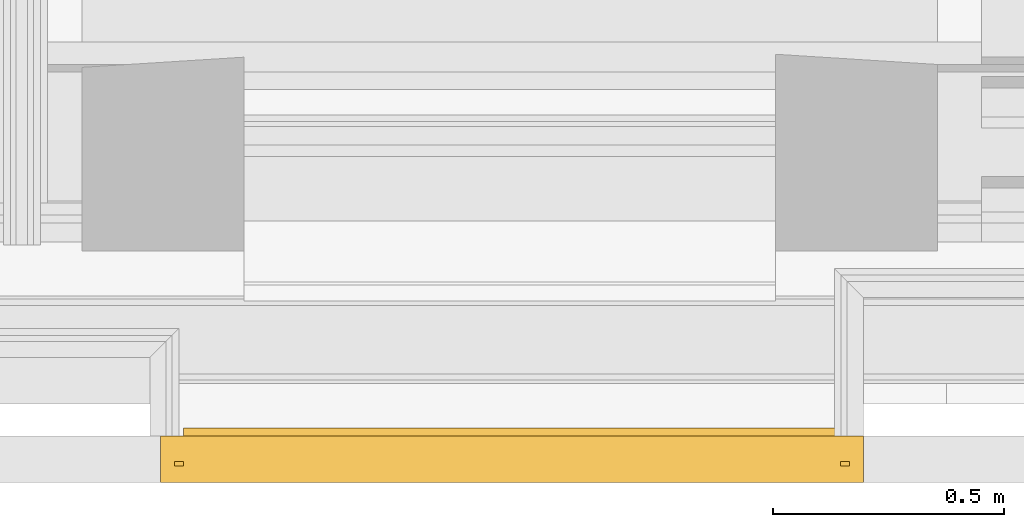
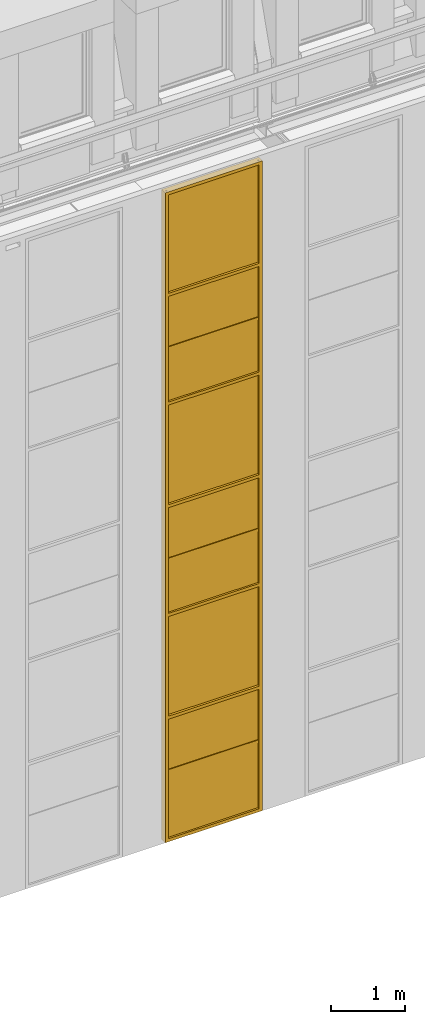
# One storey, part 135 of 183: 1 curtain wall.
"""IFC2X3 building model written with IfcOpenShell, lengths in metres."""

from ifc_helpers import new_model, entity, si_unit, converted_unit, derived_unit, money_unit, direction, frame, origin_with_axes, place, context, subcontext, project, spatial, faceted_brep, material, type_object, element, save


model = new_model("IFC2X3")

# Units and contexts
model_context = context("Model", 3, precision=1e-05, world=origin_with_axes(), true_north=direction((0.0, 1.0)))
body_context = subcontext(model_context, "Body", "Model", "MODEL_VIEW", scale=1.0)
ifc_project = project(units=[si_unit("LENGTHUNIT", "METRE"), si_unit("AREAUNIT", "SQUARE_METRE"), si_unit("VOLUMEUNIT", "CUBIC_METRE"), si_unit("ABSORBEDDOSEUNIT", "GRAY"), si_unit("AMOUNTOFSUBSTANCEUNIT", "MOLE"), si_unit("DOSEEQUIVALENTUNIT", "SIEVERT"), si_unit("ELECTRICCAPACITANCEUNIT", "FARAD"), si_unit("ELECTRICCHARGEUNIT", "COULOMB"), si_unit("ELECTRICCONDUCTANCEUNIT", "SIEMENS"), si_unit("ELECTRICCURRENTUNIT", "AMPERE"), si_unit("ELECTRICRESISTANCEUNIT", "OHM"), si_unit("ELECTRICVOLTAGEUNIT", "VOLT"), si_unit("ENERGYUNIT", "JOULE"), si_unit("FORCEUNIT", "NEWTON"), si_unit("FREQUENCYUNIT", "HERTZ"), si_unit("ILLUMINANCEUNIT", "LUX"), si_unit("INDUCTANCEUNIT", "HENRY"), si_unit("LUMINOUSFLUXUNIT", "LUMEN"), si_unit("LUMINOUSINTENSITYUNIT", "CANDELA"), si_unit("MAGNETICFLUXDENSITYUNIT", "TESLA"), si_unit("MAGNETICFLUXUNIT", "WEBER"), si_unit("MASSUNIT", "GRAM"), converted_unit("PLANEANGLEUNIT", "degree", entity("IfcReal", 0.0174532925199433), si_unit("PLANEANGLEUNIT", "RADIAN"), dimensions=[0, 0, 0, 0, 0, 0, 0]), si_unit("POWERUNIT", "WATT"), si_unit("PRESSUREUNIT", "PASCAL"), si_unit("RADIOACTIVITYUNIT", "BECQUEREL"), si_unit("SOLIDANGLEUNIT", "STERADIAN"), si_unit("THERMODYNAMICTEMPERATUREUNIT", "KELVIN"), si_unit("TIMEUNIT", "SECOND"), derived_unit("ACCELERATIONUNIT", [(si_unit("LENGTHUNIT", "METRE"), 1), (si_unit("TIMEUNIT", "SECOND"), -2)]), derived_unit("ANGULARVELOCITYUNIT", [(converted_unit("PLANEANGLEUNIT", "degree", entity("IfcReal", 0.0174532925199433), si_unit("PLANEANGLEUNIT", "RADIAN"), dimensions=[0, 0, 0, 0, 0, 0, 0]), 1), (si_unit("TIMEUNIT", "SECOND"), -1)]), derived_unit("CURVATUREUNIT", [(converted_unit("PLANEANGLEUNIT", "degree", entity("IfcReal", 0.0174532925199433), si_unit("PLANEANGLEUNIT", "RADIAN"), dimensions=[0, 0, 0, 0, 0, 0, 0]), 1), (si_unit("LENGTHUNIT", "METRE"), -1)]), derived_unit("DYNAMICVISCOSITYUNIT", [(si_unit("PRESSUREUNIT", "PASCAL"), 1), (si_unit("TIMEUNIT", "SECOND"), 1)]), derived_unit("HEATFLUXDENSITYUNIT", [(si_unit("POWERUNIT", "WATT"), 1), (si_unit("LENGTHUNIT", "METRE"), -2)]), derived_unit("HEATINGVALUEUNIT", [(si_unit("ENERGYUNIT", "JOULE"), 1), (si_unit("MASSUNIT", "GRAM"), -1)]), derived_unit("INTEGERCOUNTRATEUNIT", [(si_unit("TIMEUNIT", "SECOND"), -1)]), derived_unit("IONCONCENTRATIONUNIT", [(si_unit("MASSUNIT", "GRAM"), 1), (si_unit("VOLUMEUNIT", "CUBIC_METRE"), -1)]), derived_unit("ISOTHERMALMOISTURECAPACITYUNIT", [(si_unit("VOLUMEUNIT", "CUBIC_METRE"), 1), (si_unit("MASSUNIT", "GRAM"), -1)]), derived_unit("KINEMATICVISCOSITYUNIT", [(si_unit("AREAUNIT", "SQUARE_METRE"), 1), (si_unit("TIMEUNIT", "SECOND"), -1)]), derived_unit("LINEARFORCEUNIT", [(si_unit("FORCEUNIT", "NEWTON"), 1), (si_unit("LENGTHUNIT", "METRE"), -1)]), derived_unit("LINEARMOMENTUNIT", [(si_unit("FORCEUNIT", "NEWTON"), 1), (si_unit("LENGTHUNIT", "METRE"), -1)]), derived_unit("LINEARSTIFFNESSUNIT", [(si_unit("FORCEUNIT", "NEWTON"), 1), (si_unit("LENGTHUNIT", "METRE"), -1)]), derived_unit("LINEARVELOCITYUNIT", [(si_unit("LENGTHUNIT", "METRE"), 1), (si_unit("TIMEUNIT", "SECOND"), -1)]), derived_unit("LUMINOUSINTENSITYDISTRIBUTIONUNIT", [(si_unit("LUMINOUSINTENSITYUNIT", "CANDELA"), 1), (si_unit("LUMINOUSFLUXUNIT", "LUMEN"), -1)]), derived_unit("MASSDENSITYUNIT", [(si_unit("MASSUNIT", "GRAM"), 1), (si_unit("VOLUMEUNIT", "CUBIC_METRE"), -1)]), derived_unit("MASSFLOWRATEUNIT", [(si_unit("MASSUNIT", "GRAM"), 1), (si_unit("TIMEUNIT", "SECOND"), -1)]), derived_unit("MASSPERLENGTHUNIT", [(si_unit("MASSUNIT", "GRAM"), 1), (si_unit("LENGTHUNIT", "METRE"), -1)]), derived_unit("MODULUSOFELASTICITYUNIT", [(si_unit("FORCEUNIT", "NEWTON"), 1), (si_unit("AREAUNIT", "SQUARE_METRE"), -1)]), derived_unit("MODULUSOFLINEARSUBGRADEREACTIONUNIT", [(si_unit("FORCEUNIT", "NEWTON"), 1), (si_unit("LENGTHUNIT", "METRE"), -2)]), derived_unit("MODULUSOFROTATIONALSUBGRADEREACTIONUNIT", [(si_unit("FORCEUNIT", "NEWTON"), 1), (si_unit("LENGTHUNIT", "METRE"), 1)]), derived_unit("MODULUSOFSUBGRADEREACTIONUNIT", [(si_unit("FORCEUNIT", "NEWTON"), 1), (si_unit("VOLUMEUNIT", "CUBIC_METRE"), -1)]), derived_unit("MOISTUREDIFFUSIVITYUNIT", [(si_unit("VOLUMEUNIT", "CUBIC_METRE"), 1), (si_unit("TIMEUNIT", "SECOND"), -1)]), derived_unit("MOLECULARWEIGHTUNIT", [(si_unit("MASSUNIT", "GRAM"), 1), (si_unit("AMOUNTOFSUBSTANCEUNIT", "MOLE"), -1)]), derived_unit("PLANARFORCEUNIT", [(si_unit("FORCEUNIT", "NEWTON"), 1), (si_unit("LENGTHUNIT", "METRE"), -2)]), derived_unit("ROTATIONALFREQUENCYUNIT", [(si_unit("TIMEUNIT", "SECOND"), -1)]), derived_unit("ROTATIONALMASSUNIT", [(si_unit("MASSUNIT", "GRAM"), 1), (si_unit("LENGTHUNIT", "METRE"), 2)]), derived_unit("ROTATIONALSTIFFNESSUNIT", [(si_unit("FORCEUNIT", "NEWTON"), 1), (si_unit("LENGTHUNIT", "METRE"), 1), (converted_unit("PLANEANGLEUNIT", "degree", entity("IfcReal", 0.0174532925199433), si_unit("PLANEANGLEUNIT", "RADIAN"), dimensions=[0, 0, 0, 0, 0, 0, 0]), -1)]), derived_unit("SECTIONAREAINTEGRALUNIT", [(si_unit("LENGTHUNIT", "METRE"), 5)]), derived_unit("SECTIONMODULUSUNIT", [(si_unit("LENGTHUNIT", "METRE"), 3)]), derived_unit("SHEARMODULUSUNIT", [(si_unit("FORCEUNIT", "NEWTON"), 1), (si_unit("AREAUNIT", "SQUARE_METRE"), -1)]), derived_unit("SOUNDPOWERUNIT", [(si_unit("ENERGYUNIT", "JOULE"), 1), (si_unit("TIMEUNIT", "SECOND"), -1)]), derived_unit("SPECIFICHEATCAPACITYUNIT", [(si_unit("FORCEUNIT", "NEWTON"), 1), (si_unit("MASSUNIT", "GRAM"), -1), (si_unit("THERMODYNAMICTEMPERATUREUNIT", "KELVIN"), -1)]), derived_unit("TEMPERATUREGRADIENTUNIT", [(si_unit("THERMODYNAMICTEMPERATUREUNIT", "KELVIN"), 1), (si_unit("LENGTHUNIT", "METRE"), -1)]), derived_unit("THERMALADMITTANCEUNIT", [(si_unit("POWERUNIT", "WATT"), 1), (si_unit("AREAUNIT", "SQUARE_METRE"), -1), (si_unit("THERMODYNAMICTEMPERATUREUNIT", "KELVIN"), -1)]), derived_unit("THERMALCONDUCTANCEUNIT", [(si_unit("POWERUNIT", "WATT"), 1), (si_unit("LENGTHUNIT", "METRE"), -1), (si_unit("THERMODYNAMICTEMPERATUREUNIT", "KELVIN"), -1)]), derived_unit("THERMALEXPANSIONCOEFFICIENTUNIT", [(si_unit("THERMODYNAMICTEMPERATUREUNIT", "KELVIN"), -1)]), derived_unit("THERMALRESISTANCEUNIT", [(si_unit("AREAUNIT", "SQUARE_METRE"), 1), (si_unit("POWERUNIT", "WATT"), -1)]), derived_unit("THERMALTRANSMITTANCEUNIT", [(si_unit("POWERUNIT", "WATT"), 1), (si_unit("AREAUNIT", "SQUARE_METRE"), -1), (si_unit("THERMODYNAMICTEMPERATUREUNIT", "KELVIN"), -1)]), derived_unit("TORQUEUNIT", [(si_unit("FORCEUNIT", "NEWTON"), 1), (si_unit("LENGTHUNIT", "METRE"), 1)]), derived_unit("VAPORPERMEABILITYUNIT", [(si_unit("MASSUNIT", "GRAM"), 1), (si_unit("TIMEUNIT", "SECOND"), -1)]), derived_unit("VOLUMETRICFLOWRATEUNIT", [(si_unit("VOLUMEUNIT", "CUBIC_METRE"), 1), (si_unit("TIMEUNIT", "SECOND"), -1)]), derived_unit("WARPINGCONSTANTUNIT", [(si_unit("LENGTHUNIT", "METRE"), 6)]), derived_unit("WARPINGMOMENTUNIT", [(si_unit("FORCEUNIT", "NEWTON"), 1), (si_unit("LENGTHUNIT", "METRE"), 2)]), money_unit("GBP")], contexts=[model_context])

# Site, building, storey
site_placement = place(None, origin_with_axes())
site = spatial("IfcSite", under=ifc_project, at=site_placement, Name="Site", CompositionType="ELEMENT")
building_placement = place(site_placement, origin_with_axes())
building = spatial("IfcBuilding", under=site, at=building_placement, Name="Building01", CompositionType="ELEMENT")
storey_placement = place(building_placement, frame((0.0, 0.0, 5.15), z_axis=(0.0, 0.0, 1.0), x_axis=(1.0, 0.0, 0.0)))
storey = spatial("IfcBuildingStorey", under=building, at=storey_placement, Name="1F", CompositionType="ELEMENT", Elevation=5.15)

# Curtain wall
ifc_material = material(Name="A-CurtainWall_Frame")
curtain_wall_type = type_object("IfcCurtainWallType", Name="Pattern - Maximum Spacing", PredefinedType="NOTDEFINED")
curtain_wall_placement = place(storey_placement, frame((0.0, 0.0, -5.15), z_axis=(0.0, 0.0, 1.0), x_axis=(1.0, 0.0, 0.0)))
element("IfcCurtainWall", 1, at=curtain_wall_placement, inside=storey, type_object=curtain_wall_type, material=ifc_material, Name="23", ObjectType="Pattern - Maximum Spacing", context=body_context, shape_type="Brep", body=[
    faceted_brep([(16.06, 0.05, 4.0), (16.06, 0.03, 4.0), (16.06, 0.03, 5.118945), (16.06, 0.05, 5.118945), (17.52, 0.05, 4.0), (17.52, 0.03, 4.0), (17.52, 0.05, 5.118945), (17.52, 0.03, 5.118945)], [[[0, 1, 2, 3]], [[4, 5, 1, 0]], [[6, 7, 5, 4]], [[3, 2, 7, 6]], [[1, 5, 7, 2]], [[3, 6, 4, 0]]]),
    faceted_brep([(16.08, 0.045, 3.97), (16.06, 0.045, 3.97), (16.06, 0.035, 3.97), (16.08, 0.035, 3.97), (16.08, 0.0, 3.97), (16.03, 0.0, 3.97), (16.03, 0.1, 3.97), (16.08, 0.1, 3.97), (16.08, 0.1, 5.123945), (16.08, 0.045, 5.123945), (16.06, 0.045, 5.123945), (16.06, 0.035, 5.123945), (16.08, 0.035, 5.123945), (16.08, 0.0, 5.123945), (16.03, 0.0, 5.123945), (16.03, 0.1, 5.123945)], [[[0, 1, 2, 3, 4, 5, 6, 7]], [[7, 8, 9, 0]], [[0, 9, 10, 1]], [[1, 10, 11, 2]], [[2, 11, 12, 3]], [[3, 12, 13, 4]], [[4, 13, 14, 5]], [[5, 14, 15, 6]], [[6, 15, 8, 7]]]),
    faceted_brep([(17.5, 0.045, 4.0), (17.5, 0.035, 4.0), (17.5, 0.035, 4.02), (17.5, 0.0, 4.02), (17.5, 0.0, 3.97), (17.5, 0.1, 3.97), (17.5, 0.1, 4.02), (17.5, 0.045, 4.02), (16.08, 0.045, 4.02), (16.08, 0.045, 4.0), (16.08, 0.035, 4.0), (16.08, 0.035, 4.02), (16.08, 0.0, 4.02), (16.08, 0.0, 3.97), (16.08, 0.1, 3.97), (16.08, 0.1, 4.02)], [[[0, 1, 2, 3, 4, 5, 6, 7]], [[7, 8, 9, 0]], [[0, 9, 10, 1]], [[1, 10, 11, 2]], [[2, 11, 12, 3]], [[3, 12, 13, 4]], [[4, 13, 14, 5]], [[5, 14, 15, 6]], [[6, 15, 8, 7]], [[8, 15, 14, 13, 12, 11, 10, 9]]]),
    faceted_brep([(17.5, 0.045, 3.97), (17.5, 0.045, 5.123945), (17.5, 0.1, 5.123945), (17.5, 0.1, 3.97), (17.52, 0.045, 3.97), (17.52, 0.045, 5.123945), (17.52, 0.035, 3.97), (17.52, 0.035, 5.123945), (17.5, 0.035, 3.97), (17.5, 0.035, 5.123945), (17.5, 0.0, 3.97), (17.5, 0.0, 5.123945), (17.55, 0.0, 3.97), (17.55, 0.0, 5.123945), (17.55, 0.1, 3.97), (17.55, 0.1, 5.123945)], [[[0, 1, 2, 3]], [[4, 5, 1, 0]], [[6, 7, 5, 4]], [[8, 9, 7, 6]], [[10, 11, 9, 8]], [[12, 13, 11, 10]], [[14, 15, 13, 12]], [[3, 2, 15, 14]], [[14, 12, 10, 8, 6, 4, 0, 3]]]),
    faceted_brep([(16.08, 0.0625, 5.118945), (16.08, 0.0525, 5.118945), (16.08, 0.0525, 5.098945), (16.08, 0.0175, 5.098945), (16.08, 0.0175, 5.148945), (16.08, 0.0525, 5.148945), (16.08, 0.0525, 5.128945), (16.08, 0.0625, 5.128945), (16.08, 0.0625, 5.148945), (16.08, 0.1175, 5.148945), (16.08, 0.1175, 5.098945), (16.08, 0.0625, 5.098945), (17.5, 0.0625, 5.098945), (17.5, 0.0625, 5.118945), (17.5, 0.0525, 5.118945), (17.5, 0.0525, 5.098945), (17.5, 0.0175, 5.098945), (17.5, 0.0175, 5.148945), (17.5, 0.0525, 5.148945), (17.5, 0.0625, 5.128945), (17.5, 0.0625, 5.148945), (17.5, 0.0525, 5.128945), (17.5, 0.1175, 5.098945), (17.5, 0.1175, 5.148945)], [[[0, 1, 2, 3, 4, 5, 6, 7, 8, 9, 10, 11]], [[11, 12, 13, 0]], [[0, 13, 14, 1]], [[1, 14, 15, 2]], [[2, 15, 16, 3]], [[3, 16, 17, 4]], [[4, 17, 18, 5]], [[7, 19, 20, 8]], [[6, 21, 19, 7]], [[5, 18, 21, 6]], [[10, 22, 12, 11]], [[9, 23, 22, 10]], [[8, 20, 23, 9]], [[20, 19, 21, 18, 17, 16, 15, 14, 13, 12, 22, 23]]]),
    faceted_brep([(16.06, 0.05, 5.128945), (16.06, 0.03, 5.128945), (16.06, 0.03, 6.018105), (16.06, 0.05, 6.018105), (17.52, 0.05, 5.128945), (17.52, 0.03, 5.128945), (17.52, 0.05, 6.018105), (17.52, 0.03, 6.018105)], [[[0, 1, 2, 3]], [[4, 5, 1, 0]], [[6, 7, 5, 4]], [[3, 2, 7, 6]], [[1, 5, 7, 2]], [[3, 6, 4, 0]]]),
    faceted_brep([(16.03, 0.1, 6.023105), (16.03, 0.1, 5.123945), (16.03, 0.0, 5.123945), (16.03, 0.0, 6.023105), (16.08, 0.1, 6.023105), (16.08, 0.1, 5.123945), (16.08, 0.045, 6.023105), (16.08, 0.045, 5.123945), (16.06, 0.045, 6.023105), (16.06, 0.045, 5.123945), (16.06, 0.035, 6.023105), (16.06, 0.035, 5.123945), (16.08, 0.035, 6.023105), (16.08, 0.035, 5.123945), (16.08, 0.0, 6.023105), (16.08, 0.0, 5.123945)], [[[0, 1, 2, 3]], [[4, 5, 1, 0]], [[6, 7, 5, 4]], [[8, 9, 7, 6]], [[10, 11, 9, 8]], [[12, 13, 11, 10]], [[14, 15, 13, 12]], [[3, 2, 15, 14]]]),
    faceted_brep([(17.5, 0.045, 5.123945), (17.5, 0.045, 6.023105), (17.5, 0.1, 6.023105), (17.5, 0.1, 5.123945), (17.52, 0.045, 5.123945), (17.52, 0.045, 6.023105), (17.52, 0.035, 5.123945), (17.52, 0.035, 6.023105), (17.5, 0.035, 5.123945), (17.5, 0.035, 6.023105), (17.5, 0.0, 5.123945), (17.5, 0.0, 6.023105), (17.55, 0.0, 5.123945), (17.55, 0.0, 6.023105), (17.55, 0.1, 5.123945), (17.55, 0.1, 6.023105)], [[[0, 1, 2, 3]], [[4, 5, 1, 0]], [[6, 7, 5, 4]], [[8, 9, 7, 6]], [[10, 11, 9, 8]], [[12, 13, 11, 10]], [[14, 15, 13, 12]], [[3, 2, 15, 14]]]),
    faceted_brep([(16.08, 0.045, 6.018105), (16.08, 0.035, 6.018105), (16.08, 0.035, 5.998105), (16.08, 0.0, 5.998105), (16.08, 0.0, 6.048105), (16.08, 0.035, 6.048105), (16.08, 0.035, 6.028105), (16.08, 0.045, 6.028105), (16.08, 0.045, 6.048105), (16.08, 0.1, 6.048105), (16.08, 0.1, 5.998105), (16.08, 0.045, 5.998105), (17.5, 0.045, 5.998105), (17.5, 0.045, 6.018105), (17.5, 0.035, 6.018105), (17.5, 0.035, 5.998105), (17.5, 0.0, 5.998105), (17.5, 0.0, 6.048105), (17.5, 0.035, 6.048105), (17.5, 0.045, 6.028105), (17.5, 0.045, 6.048105), (17.5, 0.035, 6.028105), (17.5, 0.1, 5.998105), (17.5, 0.1, 6.048105)], [[[0, 1, 2, 3, 4, 5, 6, 7, 8, 9, 10, 11]], [[11, 12, 13, 0]], [[0, 13, 14, 1]], [[1, 14, 15, 2]], [[2, 15, 16, 3]], [[3, 16, 17, 4]], [[4, 17, 18, 5]], [[7, 19, 20, 8]], [[6, 21, 19, 7]], [[5, 18, 21, 6]], [[10, 22, 12, 11]], [[9, 23, 22, 10]], [[8, 20, 23, 9]], [[20, 19, 21, 18, 17, 16, 15, 14, 13, 12, 22, 23]]]),
    faceted_brep([(16.06, 0.045, 6.028105), (16.06, 0.035, 6.028105), (16.06, 0.035, 7.716517), (16.06, 0.045, 7.716517), (17.52, 0.045, 6.028105), (17.52, 0.035, 6.028105), (17.52, 0.045, 7.716517), (17.52, 0.035, 7.716517)], [[[0, 1, 2, 3]], [[4, 5, 1, 0]], [[6, 7, 5, 4]], [[3, 2, 7, 6]], [[1, 5, 7, 2]], [[3, 6, 4, 0]]]),
    faceted_brep([(16.03, 0.1, 7.721517), (16.03, 0.1, 6.023105), (16.03, 0.0, 6.023105), (16.03, 0.0, 7.721517), (16.08, 0.1, 7.721517), (16.08, 0.1, 6.023105), (16.08, 0.045, 7.721517), (16.08, 0.045, 6.023105), (16.06, 0.045, 7.721517), (16.06, 0.045, 6.023105), (16.06, 0.035, 7.721517), (16.06, 0.035, 6.023105), (16.08, 0.035, 7.721517), (16.08, 0.035, 6.023105), (16.08, 0.0, 7.721517), (16.08, 0.0, 6.023105)], [[[0, 1, 2, 3]], [[4, 5, 1, 0]], [[6, 7, 5, 4]], [[8, 9, 7, 6]], [[10, 11, 9, 8]], [[12, 13, 11, 10]], [[14, 15, 13, 12]], [[3, 2, 15, 14]]]),
    faceted_brep([(17.5, 0.045, 6.023105), (17.5, 0.045, 7.721517), (17.5, 0.1, 7.721517), (17.5, 0.1, 6.023105), (17.52, 0.045, 6.023105), (17.52, 0.045, 7.721517), (17.52, 0.035, 6.023105), (17.52, 0.035, 7.721517), (17.5, 0.035, 6.023105), (17.5, 0.035, 7.721517), (17.5, 0.0, 6.023105), (17.5, 0.0, 7.721517), (17.55, 0.0, 6.023105), (17.55, 0.0, 7.721517), (17.55, 0.1, 6.023105), (17.55, 0.1, 7.721517)], [[[0, 1, 2, 3]], [[4, 5, 1, 0]], [[6, 7, 5, 4]], [[8, 9, 7, 6]], [[10, 11, 9, 8]], [[12, 13, 11, 10]], [[14, 15, 13, 12]], [[3, 2, 15, 14]]]),
    faceted_brep([(16.08, 0.045, 7.716517), (16.08, 0.035, 7.716517), (16.08, 0.035, 7.696517), (16.08, 0.0, 7.696517), (16.08, 0.0, 7.746517), (16.08, 0.035, 7.746517), (16.08, 0.035, 7.726517), (16.08, 0.045, 7.726517), (16.08, 0.045, 7.746517), (16.08, 0.1, 7.746517), (16.08, 0.1, 7.696517), (16.08, 0.045, 7.696517), (17.5, 0.045, 7.696517), (17.5, 0.045, 7.716517), (17.5, 0.035, 7.716517), (17.5, 0.035, 7.696517), (17.5, 0.0, 7.696517), (17.5, 0.0, 7.746517), (17.5, 0.035, 7.746517), (17.5, 0.045, 7.726517), (17.5, 0.045, 7.746517), (17.5, 0.035, 7.726517), (17.5, 0.1, 7.696517), (17.5, 0.1, 7.746517)], [[[0, 1, 2, 3, 4, 5, 6, 7, 8, 9, 10, 11]], [[11, 12, 13, 0]], [[0, 13, 14, 1]], [[1, 14, 15, 2]], [[2, 15, 16, 3]], [[3, 16, 17, 4]], [[4, 17, 18, 5]], [[7, 19, 20, 8]], [[6, 21, 19, 7]], [[5, 18, 21, 6]], [[10, 22, 12, 11]], [[9, 23, 22, 10]], [[8, 20, 23, 9]], [[20, 19, 21, 18, 17, 16, 15, 14, 13, 12, 22, 23]]]),
    faceted_brep([(16.06, 0.05, 7.726517), (16.06, 0.03, 7.726517), (16.06, 0.03, 8.615677), (16.06, 0.05, 8.615677), (17.52, 0.05, 7.726517), (17.52, 0.03, 7.726517), (17.52, 0.05, 8.615677), (17.52, 0.03, 8.615677)], [[[0, 1, 2, 3]], [[4, 5, 1, 0]], [[6, 7, 5, 4]], [[3, 2, 7, 6]], [[1, 5, 7, 2]], [[3, 6, 4, 0]]]),
    faceted_brep([(16.03, 0.1, 8.620677), (16.03, 0.1, 7.721517), (16.03, 0.0, 7.721517), (16.03, 0.0, 8.620677), (16.08, 0.1, 8.620677), (16.08, 0.1, 7.721517), (16.08, 0.045, 8.620677), (16.08, 0.045, 7.721517), (16.06, 0.045, 8.620677), (16.06, 0.045, 7.721517), (16.06, 0.035, 8.620677), (16.06, 0.035, 7.721517), (16.08, 0.035, 8.620677), (16.08, 0.035, 7.721517), (16.08, 0.0, 8.620677), (16.08, 0.0, 7.721517)], [[[0, 1, 2, 3]], [[4, 5, 1, 0]], [[6, 7, 5, 4]], [[8, 9, 7, 6]], [[10, 11, 9, 8]], [[12, 13, 11, 10]], [[14, 15, 13, 12]], [[3, 2, 15, 14]]]),
    faceted_brep([(17.5, 0.045, 7.721517), (17.5, 0.045, 8.620677), (17.5, 0.1, 8.620677), (17.5, 0.1, 7.721517), (17.52, 0.045, 7.721517), (17.52, 0.045, 8.620677), (17.52, 0.035, 7.721517), (17.52, 0.035, 8.620677), (17.5, 0.035, 7.721517), (17.5, 0.035, 8.620677), (17.5, 0.0, 7.721517), (17.5, 0.0, 8.620677), (17.55, 0.0, 7.721517), (17.55, 0.0, 8.620677), (17.55, 0.1, 7.721517), (17.55, 0.1, 8.620677)], [[[0, 1, 2, 3]], [[4, 5, 1, 0]], [[6, 7, 5, 4]], [[8, 9, 7, 6]], [[10, 11, 9, 8]], [[12, 13, 11, 10]], [[14, 15, 13, 12]], [[3, 2, 15, 14]]]),
    faceted_brep([(16.08, 0.0625, 8.615677), (16.08, 0.0525, 8.615677), (16.08, 0.0525, 8.595677), (16.08, 0.0175, 8.595677), (16.08, 0.0175, 8.645677), (16.08, 0.0525, 8.645677), (16.08, 0.0525, 8.625677), (16.08, 0.0625, 8.625677), (16.08, 0.0625, 8.645677), (16.08, 0.1175, 8.645677), (16.08, 0.1175, 8.595677), (16.08, 0.0625, 8.595677), (17.5, 0.0625, 8.595677), (17.5, 0.0625, 8.615677), (17.5, 0.0525, 8.615677), (17.5, 0.0525, 8.595677), (17.5, 0.0175, 8.595677), (17.5, 0.0175, 8.645677), (17.5, 0.0525, 8.645677), (17.5, 0.0625, 8.625677), (17.5, 0.0625, 8.645677), (17.5, 0.0525, 8.625677), (17.5, 0.1175, 8.595677), (17.5, 0.1175, 8.645677)], [[[0, 1, 2, 3, 4, 5, 6, 7, 8, 9, 10, 11]], [[11, 12, 13, 0]], [[0, 13, 14, 1]], [[1, 14, 15, 2]], [[2, 15, 16, 3]], [[3, 16, 17, 4]], [[4, 17, 18, 5]], [[7, 19, 20, 8]], [[6, 21, 19, 7]], [[5, 18, 21, 6]], [[10, 22, 12, 11]], [[9, 23, 22, 10]], [[8, 20, 23, 9]], [[20, 19, 21, 18, 17, 16, 15, 14, 13, 12, 22, 23]]]),
    faceted_brep([(16.06, 0.05, 8.625677), (16.06, 0.03, 8.625677), (16.06, 0.03, 9.514837), (16.06, 0.05, 9.514837), (17.52, 0.05, 8.625677), (17.52, 0.03, 8.625677), (17.52, 0.05, 9.514837), (17.52, 0.03, 9.514837)], [[[0, 1, 2, 3]], [[4, 5, 1, 0]], [[6, 7, 5, 4]], [[3, 2, 7, 6]], [[1, 5, 7, 2]], [[3, 6, 4, 0]]]),
    faceted_brep([(16.03, 0.1, 9.519837), (16.03, 0.1, 8.620677), (16.03, 0.0, 8.620677), (16.03, 0.0, 9.519837), (16.08, 0.1, 9.519837), (16.08, 0.1, 8.620677), (16.08, 0.045, 9.519837), (16.08, 0.045, 8.620677), (16.06, 0.045, 9.519837), (16.06, 0.045, 8.620677), (16.06, 0.035, 9.519837), (16.06, 0.035, 8.620677), (16.08, 0.035, 9.519837), (16.08, 0.035, 8.620677), (16.08, 0.0, 9.519837), (16.08, 0.0, 8.620677)], [[[0, 1, 2, 3]], [[4, 5, 1, 0]], [[6, 7, 5, 4]], [[8, 9, 7, 6]], [[10, 11, 9, 8]], [[12, 13, 11, 10]], [[14, 15, 13, 12]], [[3, 2, 15, 14]]]),
    faceted_brep([(17.5, 0.045, 8.620677), (17.5, 0.045, 9.519837), (17.5, 0.1, 9.519837), (17.5, 0.1, 8.620677), (17.52, 0.045, 8.620677), (17.52, 0.045, 9.519837), (17.52, 0.035, 8.620677), (17.52, 0.035, 9.519837), (17.5, 0.035, 8.620677), (17.5, 0.035, 9.519837), (17.5, 0.0, 8.620677), (17.5, 0.0, 9.519837), (17.55, 0.0, 8.620677), (17.55, 0.0, 9.519837), (17.55, 0.1, 8.620677), (17.55, 0.1, 9.519837)], [[[0, 1, 2, 3]], [[4, 5, 1, 0]], [[6, 7, 5, 4]], [[8, 9, 7, 6]], [[10, 11, 9, 8]], [[12, 13, 11, 10]], [[14, 15, 13, 12]], [[3, 2, 15, 14]]]),
    faceted_brep([(16.08, 0.045, 9.514837), (16.08, 0.035, 9.514837), (16.08, 0.035, 9.494837), (16.08, 0.0, 9.494837), (16.08, 0.0, 9.544837), (16.08, 0.035, 9.544837), (16.08, 0.035, 9.524837), (16.08, 0.045, 9.524837), (16.08, 0.045, 9.544837), (16.08, 0.1, 9.544837), (16.08, 0.1, 9.494837), (16.08, 0.045, 9.494837), (17.5, 0.045, 9.494837), (17.5, 0.045, 9.514837), (17.5, 0.035, 9.514837), (17.5, 0.035, 9.494837), (17.5, 0.0, 9.494837), (17.5, 0.0, 9.544837), (17.5, 0.035, 9.544837), (17.5, 0.045, 9.524837), (17.5, 0.045, 9.544837), (17.5, 0.035, 9.524837), (17.5, 0.1, 9.494837), (17.5, 0.1, 9.544837)], [[[0, 1, 2, 3, 4, 5, 6, 7, 8, 9, 10, 11]], [[11, 12, 13, 0]], [[0, 13, 14, 1]], [[1, 14, 15, 2]], [[2, 15, 16, 3]], [[3, 16, 17, 4]], [[4, 17, 18, 5]], [[7, 19, 20, 8]], [[6, 21, 19, 7]], [[5, 18, 21, 6]], [[10, 22, 12, 11]], [[9, 23, 22, 10]], [[8, 20, 23, 9]], [[20, 19, 21, 18, 17, 16, 15, 14, 13, 12, 22, 23]]]),
    faceted_brep([(16.06, 0.045, 9.524837), (16.06, 0.035, 9.524837), (16.06, 0.035, 11.213249), (16.06, 0.045, 11.213249), (17.52, 0.045, 9.524837), (17.52, 0.035, 9.524837), (17.52, 0.045, 11.213249), (17.52, 0.035, 11.213249)], [[[0, 1, 2, 3]], [[4, 5, 1, 0]], [[6, 7, 5, 4]], [[3, 2, 7, 6]], [[1, 5, 7, 2]], [[3, 6, 4, 0]]]),
    faceted_brep([(16.03, 0.1, 11.218249), (16.03, 0.1, 9.519837), (16.03, 0.0, 9.519837), (16.03, 0.0, 11.218249), (16.08, 0.1, 11.218249), (16.08, 0.1, 9.519837), (16.08, 0.045, 11.218249), (16.08, 0.045, 9.519837), (16.06, 0.045, 11.218249), (16.06, 0.045, 9.519837), (16.06, 0.035, 11.218249), (16.06, 0.035, 9.519837), (16.08, 0.035, 11.218249), (16.08, 0.035, 9.519837), (16.08, 0.0, 11.218249), (16.08, 0.0, 9.519837)], [[[0, 1, 2, 3]], [[4, 5, 1, 0]], [[6, 7, 5, 4]], [[8, 9, 7, 6]], [[10, 11, 9, 8]], [[12, 13, 11, 10]], [[14, 15, 13, 12]], [[3, 2, 15, 14]]]),
    faceted_brep([(17.5, 0.045, 9.519837), (17.5, 0.045, 11.218249), (17.5, 0.1, 11.218249), (17.5, 0.1, 9.519837), (17.52, 0.045, 9.519837), (17.52, 0.045, 11.218249), (17.52, 0.035, 9.519837), (17.52, 0.035, 11.218249), (17.5, 0.035, 9.519837), (17.5, 0.035, 11.218249), (17.5, 0.0, 9.519837), (17.5, 0.0, 11.218249), (17.55, 0.0, 9.519837), (17.55, 0.0, 11.218249), (17.55, 0.1, 9.519837), (17.55, 0.1, 11.218249)], [[[0, 1, 2, 3]], [[4, 5, 1, 0]], [[6, 7, 5, 4]], [[8, 9, 7, 6]], [[10, 11, 9, 8]], [[12, 13, 11, 10]], [[14, 15, 13, 12]], [[3, 2, 15, 14]]]),
    faceted_brep([(16.08, 0.045, 11.213249), (16.08, 0.035, 11.213249), (16.08, 0.035, 11.193249), (16.08, 0.0, 11.193249), (16.08, 0.0, 11.243249), (16.08, 0.035, 11.243249), (16.08, 0.035, 11.223249), (16.08, 0.045, 11.223249), (16.08, 0.045, 11.243249), (16.08, 0.1, 11.243249), (16.08, 0.1, 11.193249), (16.08, 0.045, 11.193249), (17.5, 0.045, 11.193249), (17.5, 0.045, 11.213249), (17.5, 0.035, 11.213249), (17.5, 0.035, 11.193249), (17.5, 0.0, 11.193249), (17.5, 0.0, 11.243249), (17.5, 0.035, 11.243249), (17.5, 0.045, 11.223249), (17.5, 0.045, 11.243249), (17.5, 0.035, 11.223249), (17.5, 0.1, 11.193249), (17.5, 0.1, 11.243249)], [[[0, 1, 2, 3, 4, 5, 6, 7, 8, 9, 10, 11]], [[11, 12, 13, 0]], [[0, 13, 14, 1]], [[1, 14, 15, 2]], [[2, 15, 16, 3]], [[3, 16, 17, 4]], [[4, 17, 18, 5]], [[7, 19, 20, 8]], [[6, 21, 19, 7]], [[5, 18, 21, 6]], [[10, 22, 12, 11]], [[9, 23, 22, 10]], [[8, 20, 23, 9]], [[20, 19, 21, 18, 17, 16, 15, 14, 13, 12, 22, 23]]]),
    faceted_brep([(16.06, 0.05, 11.223249), (16.06, 0.03, 11.223249), (16.06, 0.03, 12.112409), (16.06, 0.05, 12.112409), (17.52, 0.05, 11.223249), (17.52, 0.03, 11.223249), (17.52, 0.05, 12.112409), (17.52, 0.03, 12.112409)], [[[0, 1, 2, 3]], [[4, 5, 1, 0]], [[6, 7, 5, 4]], [[3, 2, 7, 6]], [[1, 5, 7, 2]], [[3, 6, 4, 0]]]),
    faceted_brep([(16.03, 0.1, 12.117409), (16.03, 0.1, 11.218249), (16.03, 0.0, 11.218249), (16.03, 0.0, 12.117409), (16.08, 0.1, 12.117409), (16.08, 0.1, 11.218249), (16.08, 0.045, 12.117409), (16.08, 0.045, 11.218249), (16.06, 0.045, 12.117409), (16.06, 0.045, 11.218249), (16.06, 0.035, 12.117409), (16.06, 0.035, 11.218249), (16.08, 0.035, 12.117409), (16.08, 0.035, 11.218249), (16.08, 0.0, 12.117409), (16.08, 0.0, 11.218249)], [[[0, 1, 2, 3]], [[4, 5, 1, 0]], [[6, 7, 5, 4]], [[8, 9, 7, 6]], [[10, 11, 9, 8]], [[12, 13, 11, 10]], [[14, 15, 13, 12]], [[3, 2, 15, 14]]]),
    faceted_brep([(17.5, 0.045, 11.218249), (17.5, 0.045, 12.117409), (17.5, 0.1, 12.117409), (17.5, 0.1, 11.218249), (17.52, 0.045, 11.218249), (17.52, 0.045, 12.117409), (17.52, 0.035, 11.218249), (17.52, 0.035, 12.117409), (17.5, 0.035, 11.218249), (17.5, 0.035, 12.117409), (17.5, 0.0, 11.218249), (17.5, 0.0, 12.117409), (17.55, 0.0, 11.218249), (17.55, 0.0, 12.117409), (17.55, 0.1, 11.218249), (17.55, 0.1, 12.117409)], [[[0, 1, 2, 3]], [[4, 5, 1, 0]], [[6, 7, 5, 4]], [[8, 9, 7, 6]], [[10, 11, 9, 8]], [[12, 13, 11, 10]], [[14, 15, 13, 12]], [[3, 2, 15, 14]]]),
    faceted_brep([(16.08, 0.0625, 12.112409), (16.08, 0.0525, 12.112409), (16.08, 0.0525, 12.092409), (16.08, 0.0175, 12.092409), (16.08, 0.0175, 12.142409), (16.08, 0.0525, 12.142409), (16.08, 0.0525, 12.122409), (16.08, 0.0625, 12.122409), (16.08, 0.0625, 12.142409), (16.08, 0.1175, 12.142409), (16.08, 0.1175, 12.092409), (16.08, 0.0625, 12.092409), (17.5, 0.0625, 12.092409), (17.5, 0.0625, 12.112409), (17.5, 0.0525, 12.112409), (17.5, 0.0525, 12.092409), (17.5, 0.0175, 12.092409), (17.5, 0.0175, 12.142409), (17.5, 0.0525, 12.142409), (17.5, 0.0625, 12.122409), (17.5, 0.0625, 12.142409), (17.5, 0.0525, 12.122409), (17.5, 0.1175, 12.092409), (17.5, 0.1175, 12.142409)], [[[0, 1, 2, 3, 4, 5, 6, 7, 8, 9, 10, 11]], [[11, 12, 13, 0]], [[0, 13, 14, 1]], [[1, 14, 15, 2]], [[2, 15, 16, 3]], [[3, 16, 17, 4]], [[4, 17, 18, 5]], [[7, 19, 20, 8]], [[6, 21, 19, 7]], [[5, 18, 21, 6]], [[10, 22, 12, 11]], [[9, 23, 22, 10]], [[8, 20, 23, 9]], [[20, 19, 21, 18, 17, 16, 15, 14, 13, 12, 22, 23]]]),
    faceted_brep([(17.52, 0.045, 14.69), (17.52, 0.035, 14.69), (17.52, 0.035, 13.021569), (17.52, 0.045, 13.021569), (16.06, 0.045, 14.69), (16.06, 0.035, 14.69), (16.06, 0.045, 13.021569), (16.06, 0.035, 13.021569)], [[[0, 1, 2, 3]], [[4, 5, 1, 0]], [[6, 7, 5, 4]], [[3, 2, 7, 6]], [[1, 5, 7, 2]], [[3, 6, 4, 0]]]),
    faceted_brep([(17.5, 0.045, 14.72), (17.52, 0.045, 14.72), (17.52, 0.035, 14.72), (17.5, 0.035, 14.72), (17.5, 0.0, 14.72), (17.55, 0.0, 14.72), (17.55, 0.1, 14.72), (17.5, 0.1, 14.72), (17.5, 0.1, 13.016569), (17.5, 0.045, 13.016569), (17.52, 0.045, 13.016569), (17.52, 0.035, 13.016569), (17.5, 0.035, 13.016569), (17.5, 0.0, 13.016569), (17.55, 0.0, 13.016569), (17.55, 0.1, 13.016569)], [[[0, 1, 2, 3, 4, 5, 6, 7]], [[7, 8, 9, 0]], [[0, 9, 10, 1]], [[1, 10, 11, 2]], [[2, 11, 12, 3]], [[3, 12, 13, 4]], [[4, 13, 14, 5]], [[5, 14, 15, 6]], [[6, 15, 8, 7]]]),
    faceted_brep([(16.08, 0.1, 14.67), (16.08, 0.045, 14.67), (16.08, 0.045, 14.69), (16.08, 0.035, 14.69), (16.08, 0.035, 14.67), (16.08, 0.0, 14.67), (16.08, 0.0, 14.72), (16.08, 0.1, 14.72), (17.5, 0.1, 14.72), (17.5, 0.1, 14.67), (17.5, 0.045, 14.67), (17.5, 0.045, 14.69), (17.5, 0.035, 14.69), (17.5, 0.035, 14.67), (17.5, 0.0, 14.67), (17.5, 0.0, 14.72)], [[[0, 1, 2, 3, 4, 5, 6, 7]], [[7, 8, 9, 0]], [[0, 9, 10, 1]], [[1, 10, 11, 2]], [[2, 11, 12, 3]], [[3, 12, 13, 4]], [[4, 13, 14, 5]], [[5, 14, 15, 6]], [[6, 15, 8, 7]], [[8, 15, 14, 13, 12, 11, 10, 9]]]),
    faceted_brep([(16.08, 0.045, 14.72), (16.08, 0.045, 13.016569), (16.08, 0.1, 13.016569), (16.08, 0.1, 14.72), (16.06, 0.045, 14.72), (16.06, 0.045, 13.016569), (16.06, 0.035, 14.72), (16.06, 0.035, 13.016569), (16.08, 0.035, 14.72), (16.08, 0.035, 13.016569), (16.08, 0.0, 14.72), (16.08, 0.0, 13.016569), (16.03, 0.0, 14.72), (16.03, 0.0, 13.016569), (16.03, 0.1, 14.72), (16.03, 0.1, 13.016569)], [[[0, 1, 2, 3]], [[4, 5, 1, 0]], [[6, 7, 5, 4]], [[8, 9, 7, 6]], [[10, 11, 9, 8]], [[12, 13, 11, 10]], [[14, 15, 13, 12]], [[3, 2, 15, 14]], [[14, 12, 10, 8, 6, 4, 0, 3]]]),
    faceted_brep([(17.5, 0.035, 13.011569), (17.5, 0.045, 13.011569), (17.5, 0.045, 12.991569), (17.5, 0.1, 12.991569), (17.5, 0.1, 13.041569), (17.5, 0.045, 13.041569), (17.5, 0.045, 13.021569), (17.5, 0.035, 13.021569), (17.5, 0.035, 13.041569), (17.5, 0.0, 13.041569), (17.5, 0.0, 12.991569), (17.5, 0.035, 12.991569), (16.08, 0.035, 12.991569), (16.08, 0.035, 13.011569), (16.08, 0.045, 13.011569), (16.08, 0.045, 12.991569), (16.08, 0.1, 12.991569), (16.08, 0.1, 13.041569), (16.08, 0.045, 13.041569), (16.08, 0.035, 13.021569), (16.08, 0.035, 13.041569), (16.08, 0.045, 13.021569), (16.08, 0.0, 12.991569), (16.08, 0.0, 13.041569)], [[[0, 1, 2, 3, 4, 5, 6, 7, 8, 9, 10, 11]], [[11, 12, 13, 0]], [[0, 13, 14, 1]], [[1, 14, 15, 2]], [[2, 15, 16, 3]], [[3, 16, 17, 4]], [[4, 17, 18, 5]], [[7, 19, 20, 8]], [[6, 21, 19, 7]], [[5, 18, 21, 6]], [[10, 22, 12, 11]], [[9, 23, 22, 10]], [[8, 20, 23, 9]], [[20, 19, 21, 18, 17, 16, 15, 14, 13, 12, 22, 23]]]),
    faceted_brep([(16.06, 0.05, 12.122409), (16.06, 0.03, 12.122409), (16.06, 0.03, 13.011569), (16.06, 0.05, 13.011569), (17.52, 0.05, 12.122409), (17.52, 0.03, 12.122409), (17.52, 0.05, 13.011569), (17.52, 0.03, 13.011569)], [[[0, 1, 2, 3]], [[4, 5, 1, 0]], [[6, 7, 5, 4]], [[3, 2, 7, 6]], [[1, 5, 7, 2]], [[3, 6, 4, 0]]]),
    faceted_brep([(16.03, 0.1, 13.016569), (16.03, 0.1, 12.117409), (16.03, 0.0, 12.117409), (16.03, 0.0, 13.016569), (16.08, 0.1, 13.016569), (16.08, 0.1, 12.117409), (16.08, 0.045, 13.016569), (16.08, 0.045, 12.117409), (16.06, 0.045, 13.016569), (16.06, 0.045, 12.117409), (16.06, 0.035, 13.016569), (16.06, 0.035, 12.117409), (16.08, 0.035, 13.016569), (16.08, 0.035, 12.117409), (16.08, 0.0, 13.016569), (16.08, 0.0, 12.117409)], [[[0, 1, 2, 3]], [[4, 5, 1, 0]], [[6, 7, 5, 4]], [[8, 9, 7, 6]], [[10, 11, 9, 8]], [[12, 13, 11, 10]], [[14, 15, 13, 12]], [[3, 2, 15, 14]]]),
    faceted_brep([(17.5, 0.045, 12.117409), (17.5, 0.045, 13.016569), (17.5, 0.1, 13.016569), (17.5, 0.1, 12.117409), (17.52, 0.045, 12.117409), (17.52, 0.045, 13.016569), (17.52, 0.035, 12.117409), (17.52, 0.035, 13.016569), (17.5, 0.035, 12.117409), (17.5, 0.035, 13.016569), (17.5, 0.0, 12.117409), (17.5, 0.0, 13.016569), (17.55, 0.0, 12.117409), (17.55, 0.0, 13.016569), (17.55, 0.1, 12.117409), (17.55, 0.1, 13.016569)], [[[0, 1, 2, 3]], [[4, 5, 1, 0]], [[6, 7, 5, 4]], [[8, 9, 7, 6]], [[10, 11, 9, 8]], [[12, 13, 11, 10]], [[14, 15, 13, 12]], [[3, 2, 15, 14]]]),
])

save(model, "model.ifc")
